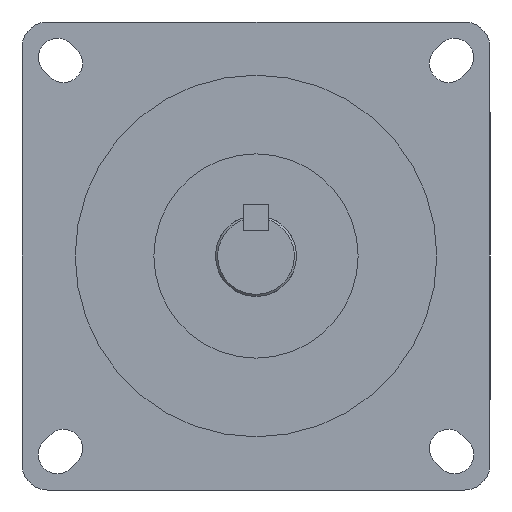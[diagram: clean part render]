
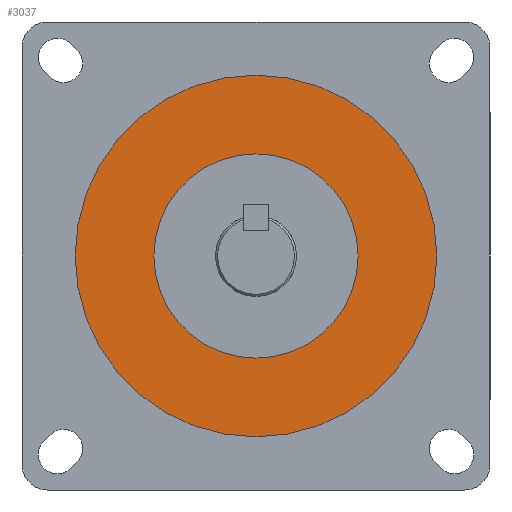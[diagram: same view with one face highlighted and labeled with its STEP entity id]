
A CAD part, left-side view. The second image highlights one B-rep face of the part: STEP entity #3037.
In plain terms, the highlighted planar face has unit normal (-1, 0, 0).
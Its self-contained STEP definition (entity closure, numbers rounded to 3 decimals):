
#27 = CARTESIAN_POINT ( 'NONE',  ( -3.5, 0., 24. ) ) ;
#35 = VERTEX_POINT ( 'NONE', #1039 ) ;
#53 = FACE_OUTER_BOUND ( 'NONE', #4275, .T. ) ;
#126 = CARTESIAN_POINT ( 'NONE',  ( -3.5, 0., 0. ) ) ;
#169 = EDGE_LOOP ( 'NONE', ( #524, #1732 ) ) ;
#524 = ORIENTED_EDGE ( 'NONE', *, *, #3621, .F. ) ;
#621 = DIRECTION ( 'NONE',  ( 0., 0., 1. ) ) ;
#652 = AXIS2_PLACEMENT_3D ( 'NONE', #1930, #1060, #621 ) ;
#687 = AXIS2_PLACEMENT_3D ( 'NONE', #126, #4004, #3566 ) ;
#873 = ORIENTED_EDGE ( 'NONE', *, *, #915, .T. ) ;
#915 = EDGE_CURVE ( 'NONE', #35, #1922, #3059, .T. ) ;
#1039 = CARTESIAN_POINT ( 'NONE',  ( -3.5, 0., 42.5 ) ) ;
#1060 = DIRECTION ( 'NONE',  ( -1., 0., 0. ) ) ;
#1063 = AXIS2_PLACEMENT_3D ( 'NONE', #2997, #2534, #2079 ) ;
#1259 = EDGE_CURVE ( 'NONE', #1922, #35, #1802, .T. ) ;
#1328 = CARTESIAN_POINT ( 'NONE',  ( -3.5, 0., -42.5 ) ) ;
#1365 = CARTESIAN_POINT ( 'NONE',  ( -3.5, 0., -24. ) ) ;
#1380 = ORIENTED_EDGE ( 'NONE', *, *, #1259, .T. ) ;
#1415 = PLANE ( 'NONE',  #687 ) ;
#1732 = ORIENTED_EDGE ( 'NONE', *, *, #3128, .F. ) ;
#1802 = CIRCLE ( 'NONE', #3330, 42.5 ) ;
#1826 = DIRECTION ( 'NONE',  ( 0., 0., 1. ) ) ;
#1922 = VERTEX_POINT ( 'NONE', #1328 ) ;
#1930 = CARTESIAN_POINT ( 'NONE',  ( -3.5, 0., 0. ) ) ;
#2079 = DIRECTION ( 'NONE',  ( 0., 0., 1. ) ) ;
#2265 = DIRECTION ( 'NONE',  ( -1., 0., 0. ) ) ;
#2335 = DIRECTION ( 'NONE',  ( 0., 0., 1. ) ) ;
#2534 = DIRECTION ( 'NONE',  ( -1., 0., 0. ) ) ;
#2723 = CARTESIAN_POINT ( 'NONE',  ( -3.5, 0., 0. ) ) ;
#2728 = VERTEX_POINT ( 'NONE', #27 ) ;
#2794 = DIRECTION ( 'NONE',  ( -1., 0., 0. ) ) ;
#2834 = CIRCLE ( 'NONE', #1063, 24. ) ;
#2904 = VERTEX_POINT ( 'NONE', #1365 ) ;
#2997 = CARTESIAN_POINT ( 'NONE',  ( -3.5, 0., 0. ) ) ;
#3037 = ADVANCED_FACE ( 'NONE', ( #53, #4038 ), #1415, .T. ) ;
#3059 = CIRCLE ( 'NONE', #4087, 42.5 ) ;
#3128 = EDGE_CURVE ( 'NONE', #2728, #2904, #4284, .T. ) ;
#3255 = CARTESIAN_POINT ( 'NONE',  ( -3.5, 0., 0. ) ) ;
#3330 = AXIS2_PLACEMENT_3D ( 'NONE', #2723, #2265, #1826 ) ;
#3566 = DIRECTION ( 'NONE',  ( 0., 0., 1. ) ) ;
#3621 = EDGE_CURVE ( 'NONE', #2904, #2728, #2834, .T. ) ;
#4004 = DIRECTION ( 'NONE',  ( -1., 0., 0. ) ) ;
#4038 = FACE_BOUND ( 'NONE', #169, .T. ) ;
#4087 = AXIS2_PLACEMENT_3D ( 'NONE', #3255, #2794, #2335 ) ;
#4275 = EDGE_LOOP ( 'NONE', ( #1380, #873 ) ) ;
#4284 = CIRCLE ( 'NONE', #652, 24. ) ;
